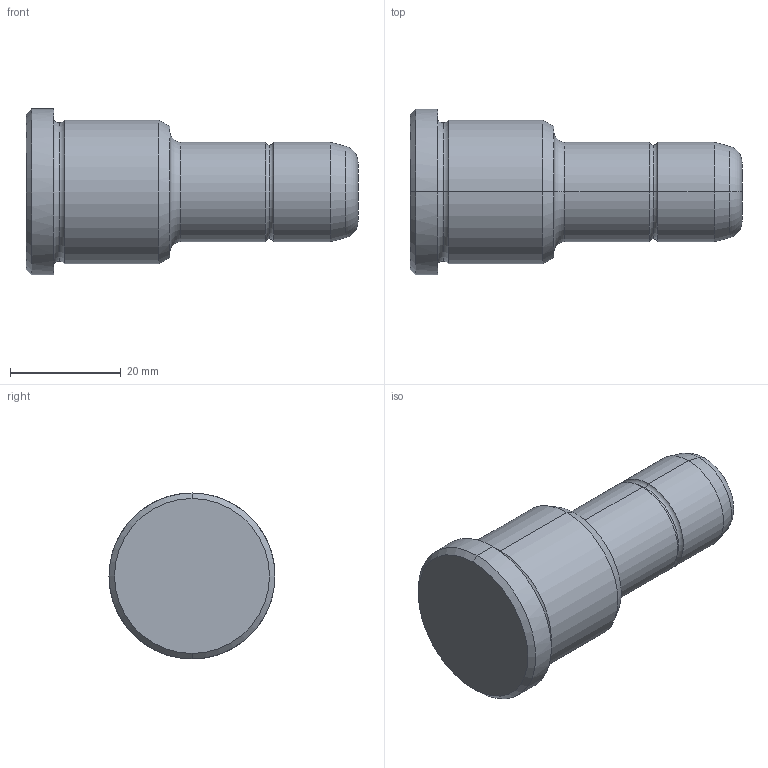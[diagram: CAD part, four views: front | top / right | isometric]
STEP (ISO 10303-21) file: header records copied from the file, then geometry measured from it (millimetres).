
FILE_DESCRIPTION(('CATIA V5 STEP Exchange'),'2;1');
FILE_NAME('C:\Users\Utente\Desktop\IO LAVORO\3D X SITO CF\X SITO\PLASTICA\351\351-18X26X60.stp','2021-08-19T12:50:01+00:00',('none'),('none'),'CATIA Version 5 Release 20 GA (IN-10)','CATIA V5 STEP AP203','none');
FILE_SCHEMA(('CONFIG_CONTROL_DESIGN'));
Length unit declared in the file: millimetre
Products named in the file (1): 351-18X26X60
Bounding box: 60 x 30 x 30 mm (x, y, z)
Volume: 22935 mm3; surface area: 5271.6 mm2
Topology: 1 solids, 1 shells, 30 faces, 86 edges, 60 vertices
Faces by surface type: torus 12, cylinder 8, cone 6, plane 4
Entity records: 1112 total; most frequent: CARTESIAN_POINT 289, ORIENTED_EDGE 172, DIRECTION 138, AXIS2_PLACEMENT_3D 95, EDGE_CURVE 86, CIRCLE 64, VERTEX_POINT 60, EDGE_LOOP 32
